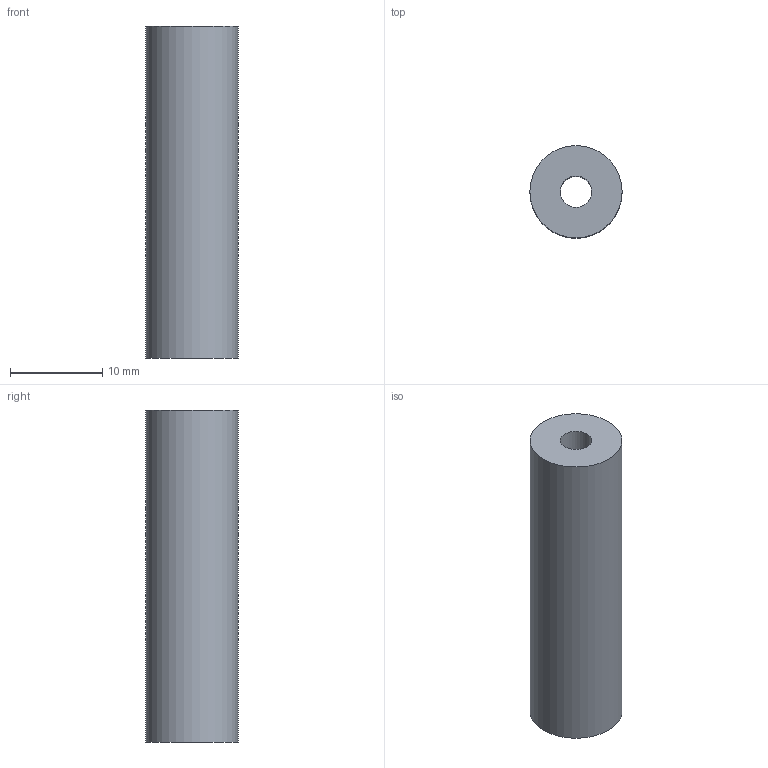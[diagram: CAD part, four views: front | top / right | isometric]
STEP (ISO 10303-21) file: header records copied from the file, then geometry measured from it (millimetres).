
FILE_DESCRIPTION(('Open CASCADE Model'),'2;1');
FILE_NAME('Open CASCADE Shape Model','2026-10-05T13:03:05',('Author'),( 'Open CASCADE'),'Open CASCADE STEP processor 7.9','Open CASCADE 7.9' ,'Unknown');
FILE_SCHEMA(('AUTOMOTIVE_DESIGN { 1 0 10303 214 1 1 1 1 }'));
Length unit declared in the file: millimetre
Products named in the file (1): Open CASCADE STEP translator 7.9 3
Bounding box: 10 x 10 x 36 mm (x, y, z)
Volume: 2500.6 mm3; surface area: 1654.4 mm2
Topology: 1 solids, 1 shells, 4 faces, 6 edges, 4 vertices
Faces by surface type: cylinder 2, plane 2
Full cylindrical faces by diameter (mm): 3.4 x1, 10 x1
Entity records: 186 total; most frequent: DIRECTION 32, CARTESIAN_POINT 27, ORIENTED_EDGE 12, PCURVE 12, DEFINITIONAL_REPRESENTATION 12, LINE 10, VECTOR 10, AXIS2_PLACEMENT_3D 9
